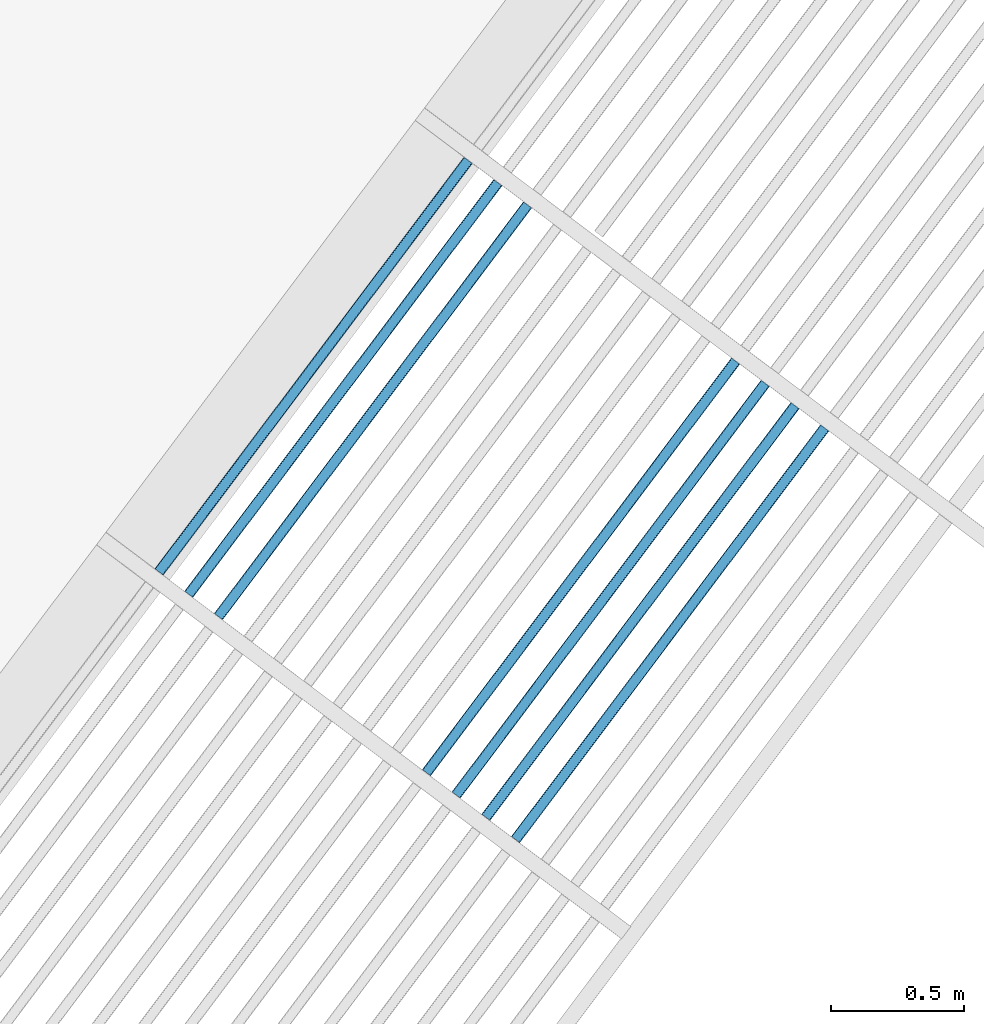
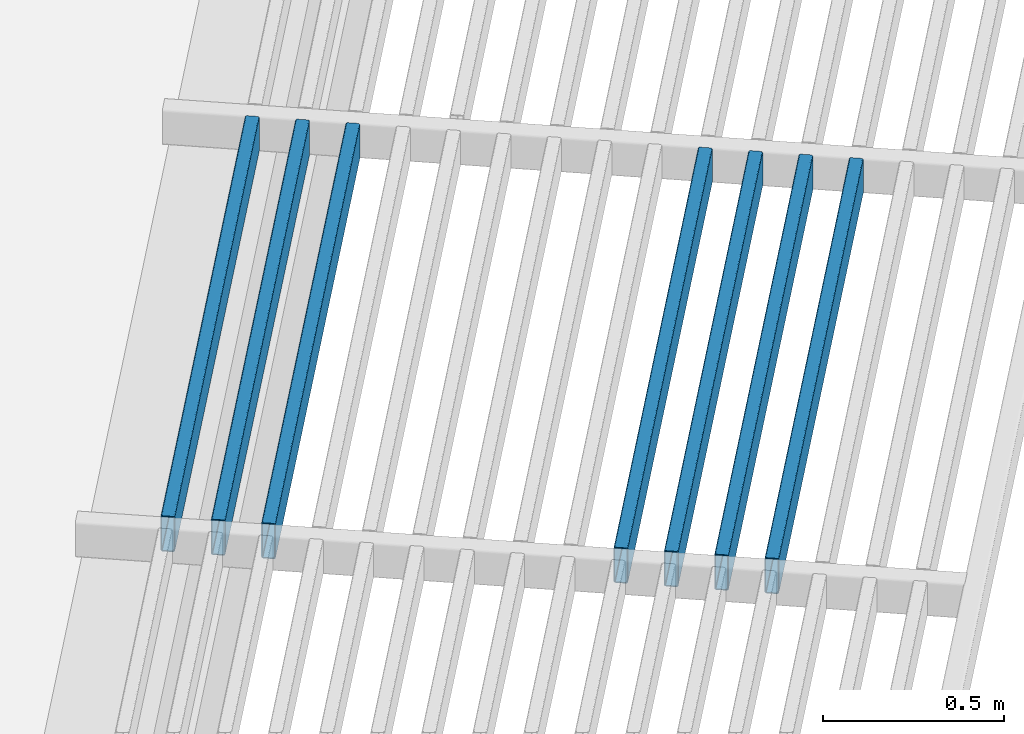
# One storey, part 21 of 95: 7 beams.
"""IFC2X3 building model written with IfcOpenShell, lengths in metres."""

from ifc_helpers import new_model, entity, si_unit, converted_unit, derived_unit, direction, frame, frame_2d, origin, place, context, subcontext, project, spatial, polyline, circle_curve, parameter, trimmed, segment, composite_curve, outline, extrude, material, type_object, element, save


model = new_model("IFC2X3")

# Units and contexts
model_context = context("Model", 3, precision=1e-05, world=origin(), true_north=direction((6.123031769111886e-17, 1.0)))
body_context = subcontext(model_context, "Body", "Model", "MODEL_VIEW")
ifc_project = project(units=[si_unit("LENGTHUNIT", "METRE"), si_unit("AREAUNIT", "SQUARE_METRE"), si_unit("VOLUMEUNIT", "CUBIC_METRE"), converted_unit("PLANEANGLEUNIT", "DEGREE", entity("IfcRatioMeasure", 0.017453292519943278), si_unit("PLANEANGLEUNIT", "RADIAN"), dimensions=[0, 0, 0, 0, 0, 0, 0]), si_unit("MASSUNIT", "GRAM", prefix="KILO"), derived_unit("MASSDENSITYUNIT", [(si_unit("MASSUNIT", "GRAM", prefix="KILO"), 1), (si_unit("LENGTHUNIT", "METRE"), -3)]), derived_unit("IONCONCENTRATIONUNIT", [(si_unit("MASSUNIT", "GRAM", prefix="KILO"), 1), (si_unit("LENGTHUNIT", "METRE"), -3)]), derived_unit("MOMENTOFINERTIAUNIT", [(si_unit("LENGTHUNIT", "METRE"), 4)]), si_unit("TIMEUNIT", "SECOND"), si_unit("FREQUENCYUNIT", "HERTZ"), si_unit("THERMODYNAMICTEMPERATUREUNIT", "DEGREE_CELSIUS"), derived_unit("THERMALTRANSMITTANCEUNIT", [(si_unit("MASSUNIT", "GRAM", prefix="KILO"), 1), (si_unit("THERMODYNAMICTEMPERATUREUNIT", "KELVIN"), -1), (si_unit("TIMEUNIT", "SECOND"), -3)]), derived_unit("THERMALCONDUCTANCEUNIT", [(si_unit("MASSUNIT", "GRAM", prefix="KILO"), 1), (si_unit("THERMODYNAMICTEMPERATUREUNIT", "KELVIN"), -1), (si_unit("TIMEUNIT", "SECOND"), -3), (si_unit("LENGTHUNIT", "METRE"), 1)]), derived_unit("VOLUMETRICFLOWRATEUNIT", [(si_unit("LENGTHUNIT", "METRE"), 3), (si_unit("TIMEUNIT", "SECOND"), -1)]), derived_unit("MASSFLOWRATEUNIT", [(si_unit("MASSUNIT", "GRAM", prefix="KILO"), 1), (si_unit("TIMEUNIT", "SECOND"), -1)]), derived_unit("ROTATIONALFREQUENCYUNIT", [(si_unit("TIMEUNIT", "SECOND"), -1)]), si_unit("ELECTRICCURRENTUNIT", "AMPERE"), si_unit("ELECTRICVOLTAGEUNIT", "VOLT"), si_unit("POWERUNIT", "WATT"), si_unit("FORCEUNIT", "NEWTON", prefix="KILO"), si_unit("ILLUMINANCEUNIT", "LUX"), si_unit("LUMINOUSFLUXUNIT", "LUMEN"), si_unit("LUMINOUSINTENSITYUNIT", "CANDELA"), derived_unit("USERDEFINED", [(si_unit("MASSUNIT", "GRAM", prefix="KILO"), -1), (si_unit("LENGTHUNIT", "METRE"), -2), (si_unit("TIMEUNIT", "SECOND"), 3), (si_unit("LUMINOUSFLUXUNIT", "LUMEN"), 1)]), derived_unit("USERDEFINED", [(si_unit("MASSUNIT", "GRAM", prefix="KILO"), 1), (si_unit("TIMEUNIT", "SECOND"), -3), (si_unit("LENGTHUNIT", "METRE"), 3), (si_unit("ELECTRICCURRENTUNIT", "AMPERE"), -2)]), derived_unit("SOUNDPOWERUNIT", [(si_unit("MASSUNIT", "GRAM", prefix="KILO"), 1), (si_unit("TIMEUNIT", "SECOND"), -3), (si_unit("LENGTHUNIT", "METRE"), 2)]), derived_unit("SOUNDPRESSUREUNIT", [(si_unit("MASSUNIT", "GRAM", prefix="KILO"), 1), (si_unit("LENGTHUNIT", "METRE"), -1), (si_unit("TIMEUNIT", "SECOND"), -2)]), derived_unit("LINEARVELOCITYUNIT", [(si_unit("LENGTHUNIT", "METRE"), 1), (si_unit("TIMEUNIT", "SECOND"), -1)]), si_unit("PRESSUREUNIT", "PASCAL"), derived_unit("USERDEFINED", [(si_unit("MASSUNIT", "GRAM", prefix="KILO"), 1), (si_unit("LENGTHUNIT", "METRE"), -2), (si_unit("TIMEUNIT", "SECOND"), -2)]), derived_unit("LINEARFORCEUNIT", [(si_unit("MASSUNIT", "GRAM", prefix="KILO"), 1), (si_unit("TIMEUNIT", "SECOND"), -2)]), derived_unit("PLANARFORCEUNIT", [(si_unit("MASSUNIT", "GRAM", prefix="KILO"), 1), (si_unit("LENGTHUNIT", "METRE"), -1), (si_unit("TIMEUNIT", "SECOND"), -2)]), derived_unit("SPECIFICHEATCAPACITYUNIT", [(si_unit("THERMODYNAMICTEMPERATUREUNIT", "KELVIN"), -1), (si_unit("LENGTHUNIT", "METRE"), 2), (si_unit("TIMEUNIT", "SECOND"), -2)]), derived_unit("HEATINGVALUEUNIT", [(si_unit("LENGTHUNIT", "METRE"), 2), (si_unit("TIMEUNIT", "SECOND"), -2)]), derived_unit("VAPORPERMEABILITYUNIT", [(si_unit("LENGTHUNIT", "METRE"), -1), (si_unit("TIMEUNIT", "SECOND"), 1)]), derived_unit("DYNAMICVISCOSITYUNIT", [(si_unit("MASSUNIT", "GRAM", prefix="KILO"), 1), (si_unit("TIMEUNIT", "SECOND"), -1), (si_unit("LENGTHUNIT", "METRE"), -1)]), derived_unit("THERMALEXPANSIONCOEFFICIENTUNIT", [(si_unit("THERMODYNAMICTEMPERATUREUNIT", "KELVIN"), -1)]), derived_unit("MODULUSOFELASTICITYUNIT", [(si_unit("MASSUNIT", "GRAM", prefix="KILO"), 1), (si_unit("LENGTHUNIT", "METRE"), -1), (si_unit("TIMEUNIT", "SECOND"), -2)]), derived_unit("ISOTHERMALMOISTURECAPACITYUNIT", [(si_unit("LENGTHUNIT", "METRE"), 3), (si_unit("MASSUNIT", "GRAM", prefix="KILO"), -1)]), derived_unit("MOISTUREDIFFUSIVITYUNIT", [(si_unit("TIMEUNIT", "SECOND"), -1), (si_unit("LENGTHUNIT", "METRE"), 2)])], contexts=[model_context])

# Site, building, storey
site_placement = place(None, origin())
site = spatial("IfcSite", under=ifc_project, at=site_placement, Name="Default", CompositionType="ELEMENT")
building_placement = place(site_placement, frame((0.0, 0.0, 235.0), z_axis=(0.0, 0.0, 1.0), x_axis=(-0.7996477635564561, 0.6004693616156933, 0.0)))
building = spatial("IfcBuilding", under=site, at=building_placement, CompositionType="ELEMENT")
storey_placement = place(building_placement, frame((0.0, 0.0, 3.400000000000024)))
storey = spatial("IfcBuildingStorey", under=building, at=storey_placement, Name="PC- Coberta STR", CompositionType="ELEMENT", Elevation=3.400000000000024)

# Beams
ifc_material = material(Name="_Acer- STR")
beam_type = type_object("IfcBeamType", Name="STR- V- Acer- RHS- Rectangular- T1:120x40RHS -", PredefinedType="NOTDEFINED")
beam_1_placement = place(storey_placement, frame((28.373552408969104, -24.385191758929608, 0.49840472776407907), z_axis=(0.0, 0.0, 1.0), x_axis=(0.0, -1.0, 0.0)))
element("IfcBeam", 1, at=beam_1_placement, inside=storey, type_object=beam_type, material=ifc_material, Name="STR- V- Acer- RHS- Rectangular- T1:120x40RHS -", ObjectType="STR- V- Acer- RHS- Rectangular- T1:120x40RHS -", context=body_context, shape_type="SweptSolid", body=[
    extrude(outline(composite_curve([segment(trimmed(circle_curve(frame_2d((-0.013999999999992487, -0.05400000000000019), x_axis=(1.0, 0.0)), 0.006), [parameter(180.0000000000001)], [parameter(269.99999999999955)], True, "PARAMETER"), True, "CONTINUOUS"), segment(polyline([(-0.013999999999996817, -0.06000000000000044), (0.01400000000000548, -0.06000000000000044)]), True, "CONTINUOUS"), segment(trimmed(circle_curve(frame_2d((0.01400000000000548, -0.05400000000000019), x_axis=(1.0, 0.0)), 0.006), [parameter(269.99999999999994)], [parameter(1.0177774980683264e-13)], True, "PARAMETER"), True, "CONTINUOUS"), segment(polyline([(0.020000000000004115, -0.05400000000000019), (0.020000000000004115, 0.05399999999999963)]), True, "CONTINUOUS"), segment(trimmed(circle_curve(frame_2d((0.01400000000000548, 0.05399999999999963), x_axis=(1.0, 0.0)), 0.006), [parameter(359.9999999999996)], [parameter(89.99999999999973)], True, "PARAMETER"), True, "CONTINUOUS"), segment(polyline([(0.01400000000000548, 0.05999999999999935), (-0.013999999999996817, 0.05999999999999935)]), True, "CONTINUOUS"), segment(trimmed(circle_curve(frame_2d((-0.013999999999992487, 0.05399999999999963), x_axis=(1.0, 0.0)), 0.006), [parameter(90.00000000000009)], [parameter(180.00000000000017)], True, "PARAMETER"), True, "CONTINUOUS"), segment(polyline([(-0.019999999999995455, 0.05399999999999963), (-0.019999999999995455, -0.05400000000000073)]), True, "CONTINUOUS")], self_intersect=False), holes=[composite_curve([segment(polyline([(0.01400000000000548, -0.05700000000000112), (-0.013999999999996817, -0.05700000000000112)]), True, "CONTINUOUS"), segment(trimmed(circle_curve(frame_2d((-0.013999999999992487, -0.05400000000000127), x_axis=(1.0, 0.0)), 0.003), [parameter(179.99999999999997)], [parameter(269.9999999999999)], True, "PARAMETER"), False, "CONTINUOUS"), segment(polyline([(-0.01699999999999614, -0.05400000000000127), (-0.01699999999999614, 0.05399999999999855)]), True, "CONTINUOUS"), segment(trimmed(circle_curve(frame_2d((-0.013999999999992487, 0.05399999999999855), x_axis=(1.0, 0.0)), 0.003), [parameter(90.00000000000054)], [parameter(180.0000000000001)], True, "PARAMETER"), False, "CONTINUOUS"), segment(polyline([(-0.013999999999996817, 0.05699999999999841), (0.01400000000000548, 0.05699999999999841)]), True, "CONTINUOUS"), segment(trimmed(circle_curve(frame_2d((0.01400000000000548, 0.05399999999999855), x_axis=(1.0, 0.0)), 0.003), [parameter(0.0)], [parameter(90.00000000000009)], True, "PARAMETER"), False, "CONTINUOUS"), segment(polyline([(0.017000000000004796, 0.05399999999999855), (0.017000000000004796, -0.05400000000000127)]), True, "CONTINUOUS"), segment(trimmed(circle_curve(frame_2d((0.01400000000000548, -0.05400000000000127), x_axis=(1.0, 0.0)), 0.003), [parameter(270.00000000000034)], [parameter(3.053332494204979e-13)], True, "PARAMETER"), False, "CONTINUOUS")], self_intersect=False)]), frame((-1.9399999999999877, 0.021595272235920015, 0.06159527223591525), z_axis=(1.0, 0.0, 0.0), x_axis=(0.0, -1.0, 0.0)), (0.0, 0.0, 1.0), 1.9399999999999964),
])
beam_2_placement = place(storey_placement, frame((28.233552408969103, -24.385191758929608, 0.49840472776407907), z_axis=(0.0, 0.0, 1.0), x_axis=(0.0, -1.0, 0.0)))
element("IfcBeam", 2, at=beam_2_placement, inside=storey, type_object=beam_type, material=ifc_material, Name="STR- V- Acer- RHS- Rectangular- T1:120x40RHS -", ObjectType="STR- V- Acer- RHS- Rectangular- T1:120x40RHS -", context=body_context, shape_type="SweptSolid", body=[
    extrude(outline(composite_curve([segment(trimmed(circle_curve(frame_2d((-0.013999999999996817, -0.05400000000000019), x_axis=(1.0, 0.0)), 0.006), [parameter(180.0000000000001)], [parameter(269.99999999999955)], True, "PARAMETER"), True, "CONTINUOUS"), segment(polyline([(-0.014000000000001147, -0.06000000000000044), (0.01400000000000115, -0.06000000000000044)]), True, "CONTINUOUS"), segment(trimmed(circle_curve(frame_2d((0.01400000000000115, -0.05400000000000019), x_axis=(1.0, 0.0)), 0.006), [parameter(269.99999999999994)], [parameter(1.0177774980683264e-13)], True, "PARAMETER"), True, "CONTINUOUS"), segment(polyline([(0.019999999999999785, -0.05400000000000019), (0.019999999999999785, 0.05399999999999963)]), True, "CONTINUOUS"), segment(trimmed(circle_curve(frame_2d((0.01400000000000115, 0.05399999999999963), x_axis=(1.0, 0.0)), 0.006), [parameter(359.9999999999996)], [parameter(89.99999999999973)], True, "PARAMETER"), True, "CONTINUOUS"), segment(polyline([(0.01400000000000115, 0.05999999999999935), (-0.014000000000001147, 0.05999999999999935)]), True, "CONTINUOUS"), segment(trimmed(circle_curve(frame_2d((-0.013999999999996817, 0.05399999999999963), x_axis=(1.0, 0.0)), 0.006), [parameter(90.00000000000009)], [parameter(180.00000000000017)], True, "PARAMETER"), True, "CONTINUOUS"), segment(polyline([(-0.019999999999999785, 0.05399999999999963), (-0.019999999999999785, -0.05400000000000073)]), True, "CONTINUOUS")], self_intersect=False), holes=[composite_curve([segment(polyline([(0.01400000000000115, -0.05700000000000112), (-0.014000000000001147, -0.05700000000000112)]), True, "CONTINUOUS"), segment(trimmed(circle_curve(frame_2d((-0.013999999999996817, -0.05400000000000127), x_axis=(1.0, 0.0)), 0.003), [parameter(179.99999999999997)], [parameter(269.9999999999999)], True, "PARAMETER"), False, "CONTINUOUS"), segment(polyline([(-0.01700000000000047, -0.05400000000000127), (-0.01700000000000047, 0.05399999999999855)]), True, "CONTINUOUS"), segment(trimmed(circle_curve(frame_2d((-0.013999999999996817, 0.05399999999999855), x_axis=(1.0, 0.0)), 0.003), [parameter(90.00000000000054)], [parameter(180.0000000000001)], True, "PARAMETER"), False, "CONTINUOUS"), segment(polyline([(-0.014000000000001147, 0.05699999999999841), (0.01400000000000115, 0.05699999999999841)]), True, "CONTINUOUS"), segment(trimmed(circle_curve(frame_2d((0.01400000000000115, 0.05399999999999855), x_axis=(1.0, 0.0)), 0.003), [parameter(0.0)], [parameter(90.00000000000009)], True, "PARAMETER"), False, "CONTINUOUS"), segment(polyline([(0.017000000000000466, 0.05399999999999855), (0.017000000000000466, -0.05400000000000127)]), True, "CONTINUOUS"), segment(trimmed(circle_curve(frame_2d((0.01400000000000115, -0.05400000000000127), x_axis=(1.0, 0.0)), 0.003), [parameter(270.00000000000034)], [parameter(3.053332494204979e-13)], True, "PARAMETER"), False, "CONTINUOUS")], self_intersect=False)]), frame((-1.9399999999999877, 0.021595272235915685, 0.06159527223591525), z_axis=(1.0, 0.0, 0.0), x_axis=(0.0, -1.0, 0.0)), (0.0, 0.0, 1.0), 1.9399999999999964),
])
beam_3_placement = place(storey_placement, frame((28.093552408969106, -24.385191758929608, 0.49840472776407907), z_axis=(0.0, 0.0, 1.0), x_axis=(0.0, -1.0, 0.0)))
element("IfcBeam", 3, at=beam_3_placement, inside=storey, type_object=beam_type, material=ifc_material, Name="STR- V- Acer- RHS- Rectangular- T1:120x40RHS -", ObjectType="STR- V- Acer- RHS- Rectangular- T1:120x40RHS -", context=body_context, shape_type="SweptSolid", body=[
    extrude(outline(composite_curve([segment(trimmed(circle_curve(frame_2d((-0.013999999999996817, -0.05400000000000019), x_axis=(1.0, 0.0)), 0.006), [parameter(180.0000000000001)], [parameter(269.99999999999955)], True, "PARAMETER"), True, "CONTINUOUS"), segment(polyline([(-0.014000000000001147, -0.06000000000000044), (0.01400000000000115, -0.06000000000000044)]), True, "CONTINUOUS"), segment(trimmed(circle_curve(frame_2d((0.01400000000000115, -0.05400000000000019), x_axis=(1.0, 0.0)), 0.006), [parameter(269.99999999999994)], [parameter(1.0177774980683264e-13)], True, "PARAMETER"), True, "CONTINUOUS"), segment(polyline([(0.019999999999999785, -0.05400000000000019), (0.019999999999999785, 0.05399999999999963)]), True, "CONTINUOUS"), segment(trimmed(circle_curve(frame_2d((0.01400000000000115, 0.05399999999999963), x_axis=(1.0, 0.0)), 0.006), [parameter(359.9999999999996)], [parameter(89.99999999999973)], True, "PARAMETER"), True, "CONTINUOUS"), segment(polyline([(0.01400000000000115, 0.05999999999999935), (-0.014000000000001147, 0.05999999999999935)]), True, "CONTINUOUS"), segment(trimmed(circle_curve(frame_2d((-0.013999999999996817, 0.05399999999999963), x_axis=(1.0, 0.0)), 0.006), [parameter(90.00000000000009)], [parameter(180.00000000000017)], True, "PARAMETER"), True, "CONTINUOUS"), segment(polyline([(-0.019999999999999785, 0.05399999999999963), (-0.019999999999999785, -0.05400000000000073)]), True, "CONTINUOUS")], self_intersect=False), holes=[composite_curve([segment(polyline([(0.01400000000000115, -0.05700000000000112), (-0.014000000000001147, -0.05700000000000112)]), True, "CONTINUOUS"), segment(trimmed(circle_curve(frame_2d((-0.013999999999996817, -0.05400000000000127), x_axis=(1.0, 0.0)), 0.003), [parameter(179.99999999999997)], [parameter(269.9999999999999)], True, "PARAMETER"), False, "CONTINUOUS"), segment(polyline([(-0.01700000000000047, -0.05400000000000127), (-0.01700000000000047, 0.05399999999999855)]), True, "CONTINUOUS"), segment(trimmed(circle_curve(frame_2d((-0.013999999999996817, 0.05399999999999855), x_axis=(1.0, 0.0)), 0.003), [parameter(90.00000000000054)], [parameter(180.0000000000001)], True, "PARAMETER"), False, "CONTINUOUS"), segment(polyline([(-0.014000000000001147, 0.05699999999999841), (0.01400000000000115, 0.05699999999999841)]), True, "CONTINUOUS"), segment(trimmed(circle_curve(frame_2d((0.01400000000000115, 0.05399999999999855), x_axis=(1.0, 0.0)), 0.003), [parameter(0.0)], [parameter(90.00000000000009)], True, "PARAMETER"), False, "CONTINUOUS"), segment(polyline([(0.017000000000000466, 0.05399999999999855), (0.017000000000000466, -0.05400000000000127)]), True, "CONTINUOUS"), segment(trimmed(circle_curve(frame_2d((0.01400000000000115, -0.05400000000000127), x_axis=(1.0, 0.0)), 0.003), [parameter(270.00000000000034)], [parameter(3.053332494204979e-13)], True, "PARAMETER"), False, "CONTINUOUS")], self_intersect=False)]), frame((-1.9399999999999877, 0.021595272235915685, 0.06159527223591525), z_axis=(1.0, 0.0, 0.0), x_axis=(0.0, -1.0, 0.0)), (0.0, 0.0, 1.0), 1.9399999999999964),
])
beam_4_placement = place(storey_placement, frame((27.113552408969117, -24.385191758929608, 0.49840472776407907), z_axis=(0.0, 0.0, 1.0), x_axis=(0.0, -1.0, 0.0)))
element("IfcBeam", 4, at=beam_4_placement, inside=storey, type_object=beam_type, material=ifc_material, Name="STR- V- Acer- RHS- Rectangular- T1:120x40RHS -", ObjectType="STR- V- Acer- RHS- Rectangular- T1:120x40RHS -", context=body_context, shape_type="SweptSolid", body=[
    extrude(outline(composite_curve([segment(trimmed(circle_curve(frame_2d((-0.013999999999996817, -0.05400000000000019), x_axis=(1.0, 0.0)), 0.006), [parameter(180.0000000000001)], [parameter(269.99999999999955)], True, "PARAMETER"), True, "CONTINUOUS"), segment(polyline([(-0.014000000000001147, -0.06000000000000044), (0.01400000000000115, -0.06000000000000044)]), True, "CONTINUOUS"), segment(trimmed(circle_curve(frame_2d((0.01400000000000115, -0.05400000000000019), x_axis=(1.0, 0.0)), 0.006), [parameter(269.99999999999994)], [parameter(1.0177774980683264e-13)], True, "PARAMETER"), True, "CONTINUOUS"), segment(polyline([(0.019999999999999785, -0.05400000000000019), (0.019999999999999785, 0.05399999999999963)]), True, "CONTINUOUS"), segment(trimmed(circle_curve(frame_2d((0.01400000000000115, 0.05399999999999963), x_axis=(1.0, 0.0)), 0.006), [parameter(359.9999999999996)], [parameter(89.99999999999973)], True, "PARAMETER"), True, "CONTINUOUS"), segment(polyline([(0.01400000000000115, 0.05999999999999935), (-0.014000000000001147, 0.05999999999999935)]), True, "CONTINUOUS"), segment(trimmed(circle_curve(frame_2d((-0.013999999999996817, 0.05399999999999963), x_axis=(1.0, 0.0)), 0.006), [parameter(90.00000000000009)], [parameter(180.00000000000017)], True, "PARAMETER"), True, "CONTINUOUS"), segment(polyline([(-0.019999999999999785, 0.05399999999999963), (-0.019999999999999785, -0.05400000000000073)]), True, "CONTINUOUS")], self_intersect=False), holes=[composite_curve([segment(polyline([(0.01400000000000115, -0.05700000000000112), (-0.014000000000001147, -0.05700000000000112)]), True, "CONTINUOUS"), segment(trimmed(circle_curve(frame_2d((-0.013999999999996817, -0.05400000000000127), x_axis=(1.0, 0.0)), 0.003), [parameter(179.99999999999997)], [parameter(269.9999999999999)], True, "PARAMETER"), False, "CONTINUOUS"), segment(polyline([(-0.01700000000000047, -0.05400000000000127), (-0.01700000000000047, 0.05399999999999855)]), True, "CONTINUOUS"), segment(trimmed(circle_curve(frame_2d((-0.013999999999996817, 0.05399999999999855), x_axis=(1.0, 0.0)), 0.003), [parameter(90.00000000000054)], [parameter(180.0000000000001)], True, "PARAMETER"), False, "CONTINUOUS"), segment(polyline([(-0.014000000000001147, 0.05699999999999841), (0.01400000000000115, 0.05699999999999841)]), True, "CONTINUOUS"), segment(trimmed(circle_curve(frame_2d((0.01400000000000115, 0.05399999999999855), x_axis=(1.0, 0.0)), 0.003), [parameter(0.0)], [parameter(90.00000000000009)], True, "PARAMETER"), False, "CONTINUOUS"), segment(polyline([(0.017000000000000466, 0.05399999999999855), (0.017000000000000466, -0.05400000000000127)]), True, "CONTINUOUS"), segment(trimmed(circle_curve(frame_2d((0.01400000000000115, -0.05400000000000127), x_axis=(1.0, 0.0)), 0.003), [parameter(270.00000000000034)], [parameter(3.053332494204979e-13)], True, "PARAMETER"), False, "CONTINUOUS")], self_intersect=False)]), frame((-1.9399999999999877, 0.021595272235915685, 0.06159527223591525), z_axis=(1.0, 0.0, 0.0), x_axis=(0.0, -1.0, 0.0)), (0.0, 0.0, 1.0), 1.9399999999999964),
])
beam_5_placement = place(storey_placement, frame((26.97355240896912, -24.385191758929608, 0.49840472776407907), z_axis=(0.0, 0.0, 1.0), x_axis=(0.0, -1.0, 0.0)))
element("IfcBeam", 5, at=beam_5_placement, inside=storey, type_object=beam_type, material=ifc_material, Name="STR- V- Acer- RHS- Rectangular- T1:120x40RHS -", ObjectType="STR- V- Acer- RHS- Rectangular- T1:120x40RHS -", context=body_context, shape_type="SweptSolid", body=[
    extrude(outline(composite_curve([segment(trimmed(circle_curve(frame_2d((-0.013999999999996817, -0.05400000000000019), x_axis=(1.0, 0.0)), 0.006), [parameter(180.0000000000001)], [parameter(269.99999999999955)], True, "PARAMETER"), True, "CONTINUOUS"), segment(polyline([(-0.014000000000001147, -0.06000000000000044), (0.01400000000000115, -0.06000000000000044)]), True, "CONTINUOUS"), segment(trimmed(circle_curve(frame_2d((0.01400000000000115, -0.05400000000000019), x_axis=(1.0, 0.0)), 0.006), [parameter(269.99999999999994)], [parameter(1.0177774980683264e-13)], True, "PARAMETER"), True, "CONTINUOUS"), segment(polyline([(0.019999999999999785, -0.05400000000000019), (0.019999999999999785, 0.05399999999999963)]), True, "CONTINUOUS"), segment(trimmed(circle_curve(frame_2d((0.01400000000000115, 0.05399999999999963), x_axis=(1.0, 0.0)), 0.006), [parameter(359.9999999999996)], [parameter(89.99999999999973)], True, "PARAMETER"), True, "CONTINUOUS"), segment(polyline([(0.01400000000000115, 0.05999999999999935), (-0.014000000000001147, 0.05999999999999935)]), True, "CONTINUOUS"), segment(trimmed(circle_curve(frame_2d((-0.013999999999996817, 0.05399999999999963), x_axis=(1.0, 0.0)), 0.006), [parameter(90.00000000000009)], [parameter(180.00000000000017)], True, "PARAMETER"), True, "CONTINUOUS"), segment(polyline([(-0.019999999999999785, 0.05399999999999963), (-0.019999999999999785, -0.05400000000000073)]), True, "CONTINUOUS")], self_intersect=False), holes=[composite_curve([segment(polyline([(0.01400000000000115, -0.05700000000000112), (-0.014000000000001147, -0.05700000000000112)]), True, "CONTINUOUS"), segment(trimmed(circle_curve(frame_2d((-0.013999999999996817, -0.05400000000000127), x_axis=(1.0, 0.0)), 0.003), [parameter(179.99999999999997)], [parameter(269.9999999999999)], True, "PARAMETER"), False, "CONTINUOUS"), segment(polyline([(-0.01700000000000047, -0.05400000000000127), (-0.01700000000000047, 0.05399999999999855)]), True, "CONTINUOUS"), segment(trimmed(circle_curve(frame_2d((-0.013999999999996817, 0.05399999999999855), x_axis=(1.0, 0.0)), 0.003), [parameter(90.00000000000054)], [parameter(180.0000000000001)], True, "PARAMETER"), False, "CONTINUOUS"), segment(polyline([(-0.014000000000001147, 0.05699999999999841), (0.01400000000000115, 0.05699999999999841)]), True, "CONTINUOUS"), segment(trimmed(circle_curve(frame_2d((0.01400000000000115, 0.05399999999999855), x_axis=(1.0, 0.0)), 0.003), [parameter(0.0)], [parameter(90.00000000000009)], True, "PARAMETER"), False, "CONTINUOUS"), segment(polyline([(0.017000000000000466, 0.05399999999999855), (0.017000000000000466, -0.05400000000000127)]), True, "CONTINUOUS"), segment(trimmed(circle_curve(frame_2d((0.01400000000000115, -0.05400000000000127), x_axis=(1.0, 0.0)), 0.003), [parameter(270.00000000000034)], [parameter(3.053332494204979e-13)], True, "PARAMETER"), False, "CONTINUOUS")], self_intersect=False)]), frame((-1.9399999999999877, 0.021595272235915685, 0.06159527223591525), z_axis=(1.0, 0.0, 0.0), x_axis=(0.0, -1.0, 0.0)), (0.0, 0.0, 1.0), 1.9399999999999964),
])
beam_6_placement = place(storey_placement, frame((26.83355240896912, -24.385191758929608, 0.49840472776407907), z_axis=(0.0, 0.0, 1.0), x_axis=(0.0, -1.0, 0.0)))
element("IfcBeam", 6, at=beam_6_placement, inside=storey, type_object=beam_type, material=ifc_material, Name="STR- V- Acer- RHS- Rectangular- T1:120x40RHS -", ObjectType="STR- V- Acer- RHS- Rectangular- T1:120x40RHS -", context=body_context, shape_type="SweptSolid", body=[
    extrude(outline(composite_curve([segment(trimmed(circle_curve(frame_2d((-0.01400000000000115, -0.05400000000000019), x_axis=(1.0, 0.0)), 0.006), [parameter(180.0000000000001)], [parameter(269.99999999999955)], True, "PARAMETER"), True, "CONTINUOUS"), segment(polyline([(-0.01400000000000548, -0.06000000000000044), (0.013999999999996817, -0.06000000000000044)]), True, "CONTINUOUS"), segment(trimmed(circle_curve(frame_2d((0.013999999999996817, -0.05400000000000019), x_axis=(1.0, 0.0)), 0.006), [parameter(269.99999999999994)], [parameter(1.0177774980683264e-13)], True, "PARAMETER"), True, "CONTINUOUS"), segment(polyline([(0.019999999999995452, -0.05400000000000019), (0.019999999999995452, 0.05399999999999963)]), True, "CONTINUOUS"), segment(trimmed(circle_curve(frame_2d((0.013999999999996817, 0.05399999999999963), x_axis=(1.0, 0.0)), 0.006), [parameter(359.9999999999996)], [parameter(89.99999999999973)], True, "PARAMETER"), True, "CONTINUOUS"), segment(polyline([(0.013999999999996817, 0.05999999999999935), (-0.01400000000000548, 0.05999999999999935)]), True, "CONTINUOUS"), segment(trimmed(circle_curve(frame_2d((-0.01400000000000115, 0.05399999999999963), x_axis=(1.0, 0.0)), 0.006), [parameter(90.00000000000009)], [parameter(180.00000000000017)], True, "PARAMETER"), True, "CONTINUOUS"), segment(polyline([(-0.02000000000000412, 0.05399999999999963), (-0.02000000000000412, -0.05400000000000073)]), True, "CONTINUOUS")], self_intersect=False), holes=[composite_curve([segment(polyline([(0.013999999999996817, -0.05700000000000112), (-0.01400000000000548, -0.05700000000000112)]), True, "CONTINUOUS"), segment(trimmed(circle_curve(frame_2d((-0.01400000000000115, -0.05400000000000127), x_axis=(1.0, 0.0)), 0.003), [parameter(179.99999999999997)], [parameter(269.9999999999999)], True, "PARAMETER"), False, "CONTINUOUS"), segment(polyline([(-0.017000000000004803, -0.05400000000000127), (-0.017000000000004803, 0.05399999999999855)]), True, "CONTINUOUS"), segment(trimmed(circle_curve(frame_2d((-0.01400000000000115, 0.05399999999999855), x_axis=(1.0, 0.0)), 0.003), [parameter(90.00000000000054)], [parameter(180.0000000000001)], True, "PARAMETER"), False, "CONTINUOUS"), segment(polyline([(-0.01400000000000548, 0.05699999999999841), (0.013999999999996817, 0.05699999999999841)]), True, "CONTINUOUS"), segment(trimmed(circle_curve(frame_2d((0.013999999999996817, 0.05399999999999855), x_axis=(1.0, 0.0)), 0.003), [parameter(0.0)], [parameter(90.00000000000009)], True, "PARAMETER"), False, "CONTINUOUS"), segment(polyline([(0.016999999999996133, 0.05399999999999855), (0.016999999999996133, -0.05400000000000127)]), True, "CONTINUOUS"), segment(trimmed(circle_curve(frame_2d((0.013999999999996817, -0.05400000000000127), x_axis=(1.0, 0.0)), 0.003), [parameter(270.00000000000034)], [parameter(3.053332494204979e-13)], True, "PARAMETER"), False, "CONTINUOUS")], self_intersect=False)]), frame((-1.9399999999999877, 0.02159527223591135, 0.06159527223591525), z_axis=(1.0, 0.0, 0.0), x_axis=(0.0, -1.0, 0.0)), (0.0, 0.0, 1.0), 1.9399999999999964),
])
beam_7_placement = place(storey_placement, frame((26.693552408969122, -24.385191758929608, 0.49840472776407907), z_axis=(0.0, 0.0, 1.0), x_axis=(0.0, -1.0, 0.0)))
element("IfcBeam", 7, at=beam_7_placement, inside=storey, type_object=beam_type, material=ifc_material, Name="STR- V- Acer- RHS- Rectangular- T1:120x40RHS -", ObjectType="STR- V- Acer- RHS- Rectangular- T1:120x40RHS -", context=body_context, shape_type="SweptSolid", body=[
    extrude(outline(composite_curve([segment(trimmed(circle_curve(frame_2d((-0.01400000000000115, -0.05400000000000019), x_axis=(1.0, 0.0)), 0.006), [parameter(180.0000000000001)], [parameter(269.99999999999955)], True, "PARAMETER"), True, "CONTINUOUS"), segment(polyline([(-0.01400000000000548, -0.06000000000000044), (0.013999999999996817, -0.06000000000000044)]), True, "CONTINUOUS"), segment(trimmed(circle_curve(frame_2d((0.013999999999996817, -0.05400000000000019), x_axis=(1.0, 0.0)), 0.006), [parameter(269.99999999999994)], [parameter(1.0177774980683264e-13)], True, "PARAMETER"), True, "CONTINUOUS"), segment(polyline([(0.019999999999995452, -0.05400000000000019), (0.019999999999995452, 0.05399999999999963)]), True, "CONTINUOUS"), segment(trimmed(circle_curve(frame_2d((0.013999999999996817, 0.05399999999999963), x_axis=(1.0, 0.0)), 0.006), [parameter(359.9999999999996)], [parameter(89.99999999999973)], True, "PARAMETER"), True, "CONTINUOUS"), segment(polyline([(0.013999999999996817, 0.05999999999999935), (-0.01400000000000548, 0.05999999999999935)]), True, "CONTINUOUS"), segment(trimmed(circle_curve(frame_2d((-0.01400000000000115, 0.05399999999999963), x_axis=(1.0, 0.0)), 0.006), [parameter(90.00000000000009)], [parameter(180.00000000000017)], True, "PARAMETER"), True, "CONTINUOUS"), segment(polyline([(-0.02000000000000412, 0.05399999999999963), (-0.02000000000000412, -0.05400000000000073)]), True, "CONTINUOUS")], self_intersect=False), holes=[composite_curve([segment(polyline([(0.013999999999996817, -0.05700000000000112), (-0.01400000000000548, -0.05700000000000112)]), True, "CONTINUOUS"), segment(trimmed(circle_curve(frame_2d((-0.01400000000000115, -0.05400000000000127), x_axis=(1.0, 0.0)), 0.003), [parameter(179.99999999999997)], [parameter(269.9999999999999)], True, "PARAMETER"), False, "CONTINUOUS"), segment(polyline([(-0.017000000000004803, -0.05400000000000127), (-0.017000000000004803, 0.05399999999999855)]), True, "CONTINUOUS"), segment(trimmed(circle_curve(frame_2d((-0.01400000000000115, 0.05399999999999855), x_axis=(1.0, 0.0)), 0.003), [parameter(90.00000000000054)], [parameter(180.0000000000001)], True, "PARAMETER"), False, "CONTINUOUS"), segment(polyline([(-0.01400000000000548, 0.05699999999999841), (0.013999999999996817, 0.05699999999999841)]), True, "CONTINUOUS"), segment(trimmed(circle_curve(frame_2d((0.013999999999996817, 0.05399999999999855), x_axis=(1.0, 0.0)), 0.003), [parameter(0.0)], [parameter(90.00000000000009)], True, "PARAMETER"), False, "CONTINUOUS"), segment(polyline([(0.016999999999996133, 0.05399999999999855), (0.016999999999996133, -0.05400000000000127)]), True, "CONTINUOUS"), segment(trimmed(circle_curve(frame_2d((0.013999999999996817, -0.05400000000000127), x_axis=(1.0, 0.0)), 0.003), [parameter(270.00000000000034)], [parameter(3.053332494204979e-13)], True, "PARAMETER"), False, "CONTINUOUS")], self_intersect=False)]), frame((-1.9399999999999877, 0.02159527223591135, 0.06159527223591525), z_axis=(1.0, 0.0, 0.0), x_axis=(0.0, -1.0, 0.0)), (0.0, 0.0, 1.0), 1.9399999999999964),
])

save(model, "model.ifc")
